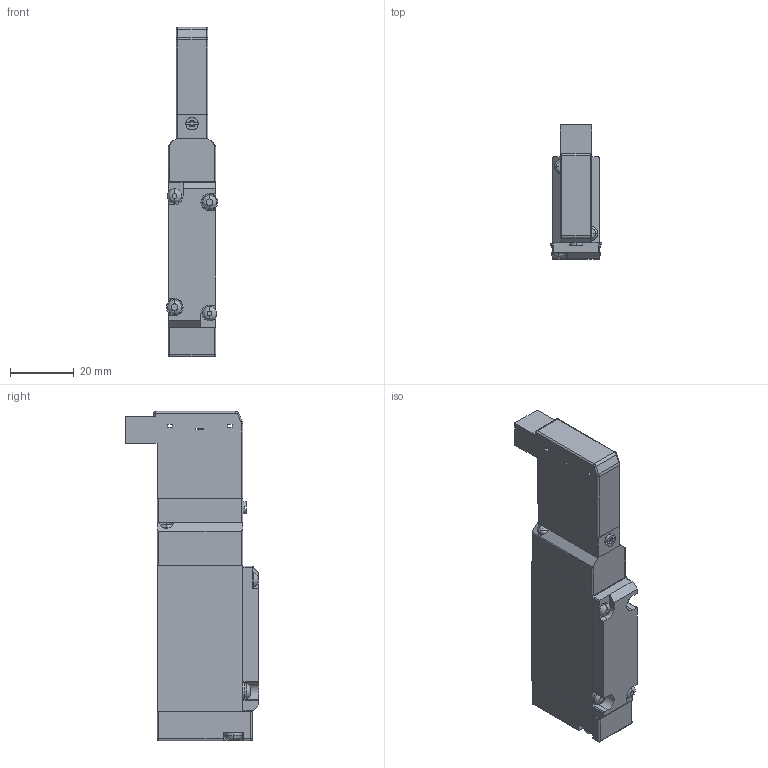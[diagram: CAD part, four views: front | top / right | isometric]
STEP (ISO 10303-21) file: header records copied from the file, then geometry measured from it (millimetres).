
FILE_DESCRIPTION( (''), '2;1');
FILE_NAME ('CVICAD02.3360.F15T0-A1_21341.stp','2021-07-12T19:12:02',(''),(''),'spGate 12.6.6','','');
FILE_SCHEMA (('AUTOMOTIVE_DESIGN'));
Length unit declared in the file: millimetre
Products named in the file (7): Assembly; CVICAD02-prt0; CVICAD02-prt1; CVICAD02-prt2; CVICAD02-prt3; CVICAD02-prt4; CVICAD02-prt5
Assembly tree (6 placements, depth 2):
  Assembly
    CVICAD02-prt0
    CVICAD02-prt1
    CVICAD02-prt2
    CVICAD02-prt3
    CVICAD02-prt4
    CVICAD02-prt5
Bounding box: 16.2 x 42 x 103.5 mm (x, y, z)
Volume: 40612.3 mm3; surface area: 15364.7 mm2
Topology: 6 solids, 6 shells, 239 faces, 600 edges, 377 vertices
Faces by surface type: plane 118, cylinder 90, bspline 26, sphere 5
Entity records: 12412 total; most frequent: CARTESIAN_POINT 1929, ORIENTED_EDGE 1182, DIRECTION 1119, COLOUR_RGB 836, PRESENTATION_STYLE_ASSIGNMENT 836, STYLED_ITEM 836, EDGE_CURVE 591, DRAUGHTING_PRE_DEFINED_CURVE_FONT 591
